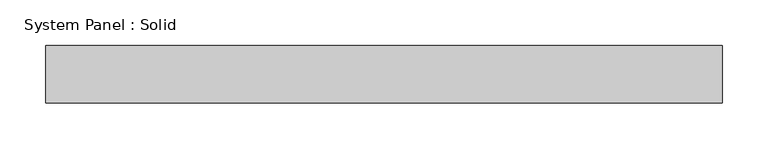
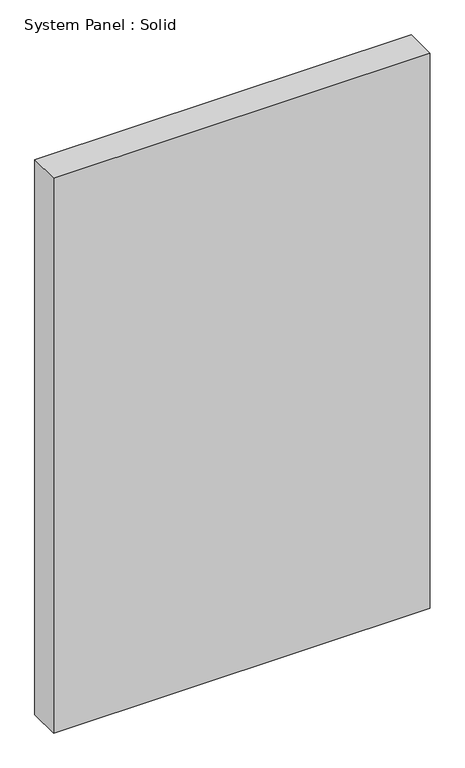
"""IFC4 building model written with IfcOpenShell, lengths in millimetres: plate geometry, System Panel : Solid."""

from ifc_helpers import new_model, si_unit, origin, origin_with_axes, place, context, project, spatial, polyline, outline, extrude, source, transform, mapped, element, save


def system_panel_solid_5f34d272(model_context):
    return source(origin(), model_context, "Body", "SweptSolid", [
        extrude(outline(polyline([(371.2456567, -19.05), (-371.2456567, -19.05), (-371.2456567, 44.45), (371.2456567, 44.45), (371.2456567, -19.05)])), origin_with_axes(), (0.0, 0.0, 1.0), 1155.7),
    ])


if __name__ == "__main__":
    model = new_model("IFC4")
    model_context = context("Model", 3, world=origin())
    ifc_project = project(units=[si_unit("LENGTHUNIT", "METRE", prefix="MILLI")], contexts=[model_context])
    site = spatial("IfcSite", under=ifc_project)
    building = spatial("IfcBuilding", under=site)
    placement = place(None, origin())
    system_panel_solid_shape = system_panel_solid_5f34d272(model_context)
    element("IfcPlate", 1, ObjectType="System Panel : Solid", at=placement, inside=building, context=model_context, shape_type="MappedRepresentation", body=[
        mapped(system_panel_solid_shape, transform((0.0, 0.0, 0.0), x_axis=(1.0, 0.0, 0.0), y_axis=(0.0, 1.0, 0.0), z_axis=(0.0, 0.0, 1.0))),
    ])
    save(model, "model.ifc")
